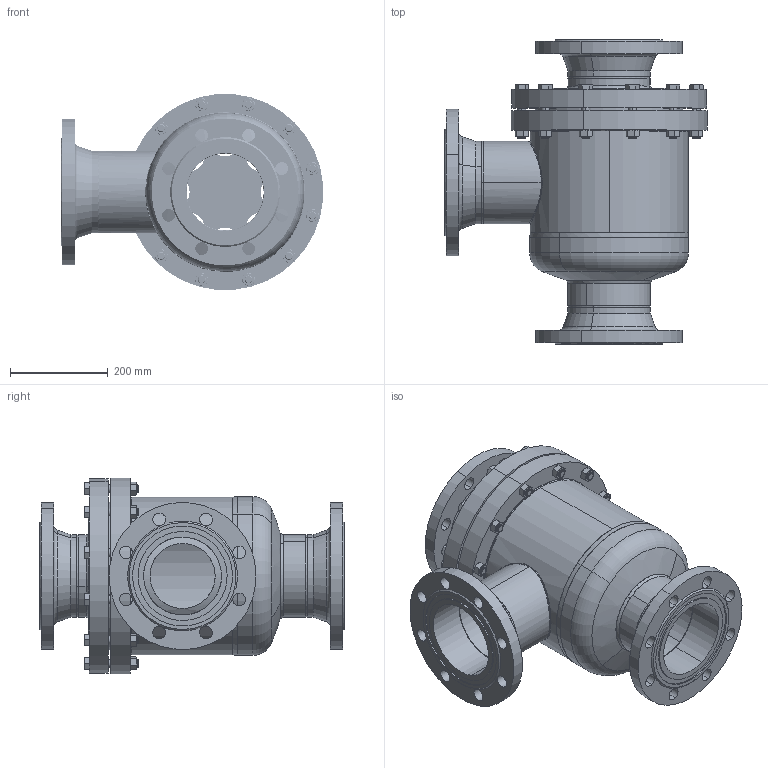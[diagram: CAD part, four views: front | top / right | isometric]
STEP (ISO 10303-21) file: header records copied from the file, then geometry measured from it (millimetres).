
FILE_DESCRIPTION (( 'STEP AP214' ), '1' );
FILE_NAME ('TR47020B21-DN150_DIN_PS25.STEP', '2005-08-10T11:27:25', ( 'Herr Grams' ), ( 'AWP GmbH' ), 'SwSTEP 2.0', 'SolidWorks 2002296', '' );
FILE_SCHEMA (( 'AUTOMOTIVE_DESIGN' ));
Length unit declared in the file: millimetre
Products named in the file (23): TR47020B21-DN150_DIN_PS25; TR47000B21-DN150_R1_PS25_Standard; Andruckplatte47000E21-DN150_Standard; Deckel47000B21_DN150_PS25_R1_Standard; Geh-kpl47000B21-DN150_PS25_R1_Standard; RohrstutzE00000-DN125-150_PS40_R1_DN 150; Kopfring47000B21_DN150_PS25_Standard; RohrstutzA47000B21-DN150_PS40_R1_Standard; Boden47000B_DN125-150_PS25_DN150; Geh47000B21_DN150_PS25_R1_Standard; Kehlnaht21-3_Standard; bead21-5_Standard; bead21-4_Standard; bead21-1_Standard; Kehlnaht21-2_Standard; Führungsring47000E21-DN150_Standard; Sechskantmutter-DIN934_M16; loser Flansch47000B21_DN150_PS25_Standard; Sechskantschraube-DIN933-M16x100_M16x100; Flansch-DIN-Nut_PS40_DIN-Flansch-DN150_PS40-Nut; TR150-3_Standard; TR150-2_Standard; TR150-1_Standard
Assembly tree (46 placements, depth 4):
  TR47020B21-DN150_DIN_PS25
    TR150-3_Standard
    TR150-1_Standard
    Flansch-DIN-Nut_PS40_DIN-Flansch-DN150_PS40-Nut  x3
    TR47000B21-DN150_R1_PS25_Standard
      Sechskantmutter-DIN934_M16  x12
      Führungsring47000E21-DN150_Standard
      loser Flansch47000B21_DN150_PS25_Standard
      Sechskantschraube-DIN933-M16x100_M16x100  x12
      Deckel47000B21_DN150_PS25_R1_Standard
      Geh-kpl47000B21-DN150_PS25_R1_Standard
        Geh47000B21_DN150_PS25_R1_Standard
        Boden47000B_DN125-150_PS25_DN150
        bead21-1_Standard
        Kehlnaht21-3_Standard
        Kehlnaht21-2_Standard
        Kopfring47000B21_DN150_PS25_Standard
        RohrstutzA47000B21-DN150_PS40_R1_Standard
        bead21-5_Standard
        bead21-4_Standard
        RohrstutzE00000-DN125-150_PS40_R1_DN 150
      Andruckplatte47000E21-DN150_Standard
    TR150-2_Standard
Bounding box: 534.74 x 620.5 x 399.47 mm (x, y, z)
Volume: 14692850.2 mm3; surface area: 2671990.8 mm2
Topology: 44 solids, 44 shells, 1470 faces, 3718 edges, 2352 vertices
Faces by surface type: cylinder 716, cone 398, plane 282, bspline 48, torus 18, sphere 8
Entity records: 41275 total; most frequent: CARTESIAN_POINT 30039, DIRECTION 2216, ORIENTED_EDGE 2070, EDGE_CURVE 1035, AXIS2_PLACEMENT_3D 961, VERTEX_POINT 662, EDGE_LOOP 571, CIRCLE 510
